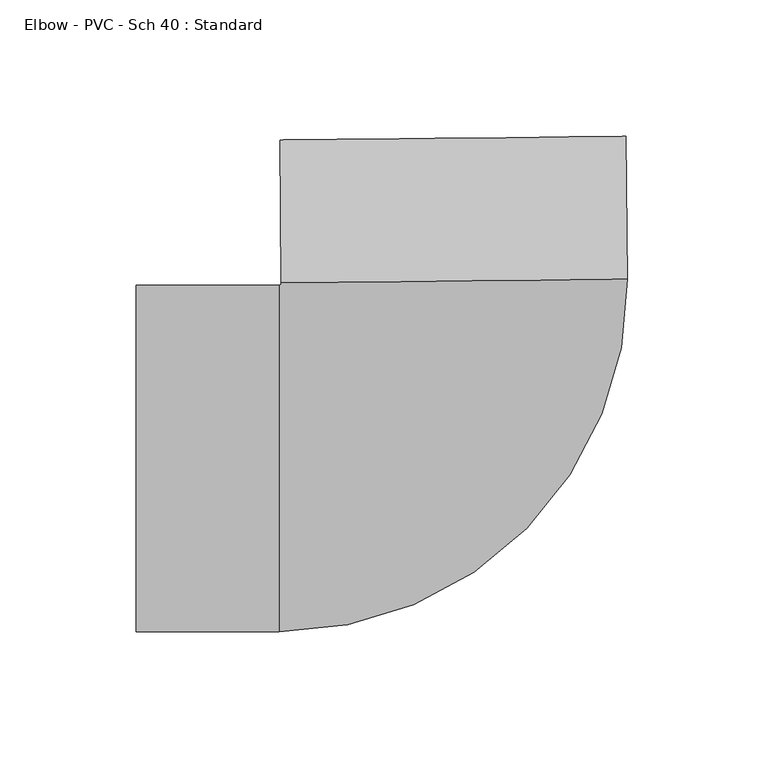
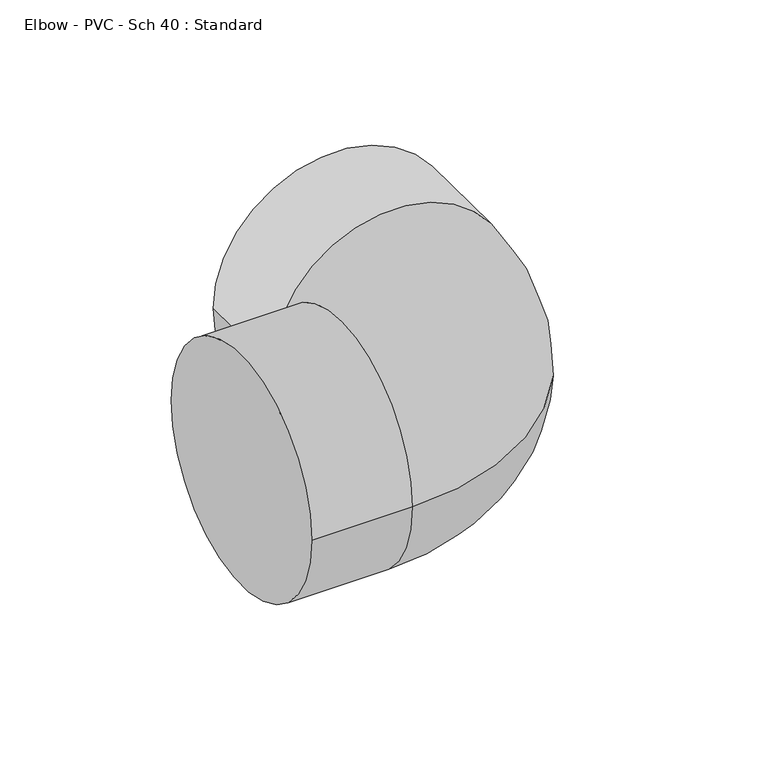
"""IFC4 building model written with IfcOpenShell, lengths in millimetres: pipe fitting geometry, Elbow - PVC - Sch 40 : Standard."""

import ifcopenshell
import ifcopenshell.guid

model = None  # the IFC model being written
_history = None  # IfcOwnerHistory: only IFC2X3 demands one
_inside = {}  # id of a spatial element -> (the spatial element, [elements in it])
_under = {}  # id of a project, library or spatial element -> (it, [spatial elements below it])
_declared = {}  # id of a project -> (the project, [libraries it declares])
_typed = {}  # id of a type object -> (the type object, [elements of that type])
_made_of = {}  # id of a material, layer set ... -> (it, [elements and type objects made of it])


def new_model(schema):
    """Start an empty IFC model of exactly this schema.

    Asked for "IFC4X3", IfcOpenShell would pick the latest addendum, in which some entities
    have other attributes; the version numbers below select the first issue.
    IFC2X3 requires an IfcOwnerHistory on every rooted entity: one is made here for all.
    """
    global model, _history
    if schema == "IFC4X3":
        model = ifcopenshell.file(schema_version=(4, 3, 0, 0))
    else:
        model = ifcopenshell.file(schema=schema)
    _inside.clear()
    _under.clear()
    _declared.clear()
    _typed.clear()
    _made_of.clear()
    _history = None
    if model.schema == "IFC2X3":
        org = make("IfcOrganization", Name="unknown")
        user = make(
            "IfcPersonAndOrganization",
            ThePerson=make("IfcPerson", FamilyName="unknown"),
            TheOrganization=org,
        )
        app = make(
            "IfcApplication",
            ApplicationDeveloper=org,
            Version="unknown",
            ApplicationFullName="unknown",
            ApplicationIdentifier="unknown",
        )
        _history = make(
            "IfcOwnerHistory",
            OwningUser=user,
            OwningApplication=app,
            ChangeAction="ADDED",
            CreationDate=0,
        )
    return model


def make(cls, **values):
    """One entity of the class cls with the attributes given. An attribute that is None is left unset."""
    return model.create_entity(
        cls, **{name: value for name, value in values.items() if value is not None}
    )


def rooted(cls, **values):
    """An entity with a GlobalId (a new one), such as an element, a storey or a relation."""
    return make(cls, GlobalId=ifcopenshell.guid.new(), OwnerHistory=_history, **values)


def si_unit(unit_type, name, prefix=None):
    """IfcSIUnit, for example si_unit("LENGTHUNIT", "METRE", prefix="MILLI")."""
    return make("IfcSIUnit", UnitType=unit_type, Prefix=prefix, Name=name)


def assignment(units):
    """IfcUnitAssignment: the units of a project."""
    return None if units is None else make("IfcUnitAssignment", Units=units)


def point(xyz):
    """IfcCartesianPoint."""
    return None if xyz is None else make("IfcCartesianPoint", Coordinates=xyz)


def direction(xyz):
    """IfcDirection."""
    return None if xyz is None else make("IfcDirection", DirectionRatios=xyz)


def frame(location, z_axis=None, x_axis=None):
    """IfcAxis2Placement3D, a coordinate frame: its origin and axes. An axis left out is left unset."""
    return make(
        "IfcAxis2Placement3D",
        Location=point(location),
        Axis=direction(z_axis),
        RefDirection=direction(x_axis),
    )


def origin():
    """The frame at (0, 0, 0) with its axes left unset."""
    return frame((0.0, 0.0, 0.0))


def place(relative_to, where):
    """IfcLocalPlacement: puts the frame where relative to a parent placement (None: the world)."""
    return make(
        "IfcLocalPlacement", PlacementRelTo=relative_to, RelativePlacement=where
    )


def context(
    kind, dimensions, precision=None, world=None, true_north=None, identifier=None
):
    """IfcGeometricRepresentationContext, for example the 3D "Model" context."""
    return make(
        "IfcGeometricRepresentationContext",
        ContextIdentifier=identifier,
        ContextType=kind,
        CoordinateSpaceDimension=dimensions,
        Precision=precision,
        WorldCoordinateSystem=world,
        TrueNorth=true_north,
    )


def project(units=None, contexts=None):
    """IfcProject with its units and contexts."""
    return rooted(
        "IfcProject",
        Name="project",
        RepresentationContexts=contexts,
        UnitsInContext=assignment(units),
    )


def spatial(cls, under=None, at=None, **own):
    """A site, building, storey or space (cls), placed at a placement, below another one or the project."""
    s = rooted(cls, ObjectPlacement=at, **own)
    if under is not None:
        _under.setdefault(under.id(), (under, []))[1].append(s)
    return s


def circle_curve(where, radius):
    """IfcCircle in the frame where."""
    return make("IfcCircle", Position=where, Radius=radius)


def ellipse_curve(where, semi_axis1, semi_axis2):
    """IfcEllipse in the frame where."""
    return make(
        "IfcEllipse", Position=where, SemiAxis1=semi_axis1, SemiAxis2=semi_axis2
    )


def trimmed(basis, trim1, trim2, sense, master):
    """IfcTrimmedCurve: the piece of a basis curve between two trims."""
    return make(
        "IfcTrimmedCurve",
        BasisCurve=basis,
        Trim1=trim1,
        Trim2=trim2,
        SenseAgreement=sense,
        MasterRepresentation=master,
    )


def shape(context_of_items, identifier, shape_type, items):
    """IfcShapeRepresentation: the items that make up one representation, for example the "Body"."""
    return make(
        "IfcShapeRepresentation",
        ContextOfItems=context_of_items,
        RepresentationIdentifier=identifier,
        RepresentationType=shape_type,
        Items=items,
    )


def source(mapping_origin, context_of_items, identifier, shape_type, items):
    """IfcRepresentationMap: a shape defined once, which mapped items show again and again."""
    return make(
        "IfcRepresentationMap",
        MappingOrigin=mapping_origin,
        MappedRepresentation=shape(context_of_items, identifier, shape_type, items),
    )


def transform(
    local_origin,
    x_axis=None,
    y_axis=None,
    z_axis=None,
    scale=None,
    scale2=None,
    scale3=None,
    uniform=True,
):
    """IfcCartesianTransformationOperator3D, or its non-uniform kind. x_axis, y_axis, z_axis: its Axis1, 2, 3."""
    if uniform:
        return make(
            "IfcCartesianTransformationOperator3D",
            Axis1=direction(x_axis),
            Axis2=direction(y_axis),
            LocalOrigin=point(local_origin),
            Scale=scale,
            Axis3=direction(z_axis),
        )
    return make(
        "IfcCartesianTransformationOperator3DnonUniform",
        Axis1=direction(x_axis),
        Axis2=direction(y_axis),
        LocalOrigin=point(local_origin),
        Scale=scale,
        Axis3=direction(z_axis),
        Scale2=scale2,
        Scale3=scale3,
    )


def mapped(mapping_source, mapping_target):
    """IfcMappedItem: shows the shape of a source again, moved by a transform."""
    return make(
        "IfcMappedItem", MappingSource=mapping_source, MappingTarget=mapping_target
    )


def made_of(thing, what):
    """Note that an element or type object is made of a material, layer set ...; save() writes the relation."""
    if what is not None:
        _made_of.setdefault(what.id(), (what, []))[1].append(thing)
    return thing


def element(
    cls,
    number,
    at=None,
    inside=None,
    cuts=None,
    type_object=None,
    material=None,
    context=None,
    identifier="Body",
    shape_type=None,
    held_by="IfcProductDefinitionShape",
    body=None,
    shapes=None,
    **own,
):
    """One element of the class cls, such as IfcWall. Its Tag is "e" and its number.

    at: its placement. inside: the storey or other place that contains it. cuts: it is an
    opening in that element (IfcRelVoidsElement). A single representation is given by context,
    identifier, shape_type and body (its items); several are given by shapes. held_by: the class
    of the entity that holds the representations. save() writes the other relations.
    """
    e = rooted(cls, Tag="e%d" % number, ObjectPlacement=at, **own)
    if body is not None:
        shapes = [shape(context, identifier, shape_type, body)]
    if shapes is not None:
        e.Representation = make(held_by, Representations=shapes)
    if inside is not None:
        _inside.setdefault(inside.id(), (inside, []))[1].append(e)
    if cuts is not None:
        rooted(
            "IfcRelVoidsElement", RelatingBuildingElement=cuts, RelatedOpeningElement=e
        )
    if type_object is not None:
        _typed.setdefault(type_object.id(), (type_object, []))[1].append(e)
    return made_of(e, material)


def aggregate(whole, parts):
    """IfcRelAggregates: a whole, such as a stair, and the parts it consists of."""
    return rooted("IfcRelAggregates", RelatingObject=whole, RelatedObjects=parts)


def save(model, path):
    """Write the relations noted so far, then the file.

    IfcRelAggregates (storeys below a building ...), IfcRelContainedInSpatialStructure (elements
    in a storey), IfcRelDefinesByType, IfcRelAssociatesMaterial and IfcRelDeclares: one each for
    every whole, place, type object, material and project.
    """
    for whole, parts in _under.values():
        aggregate(whole, parts)
    for where, things in _inside.values():
        rooted(
            "IfcRelContainedInSpatialStructure",
            RelatedElements=things,
            RelatingStructure=where,
        )
    for kind, things in _typed.values():
        rooted("IfcRelDefinesByType", RelatedObjects=things, RelatingType=kind)
    for what, things in _made_of.values():
        rooted("IfcRelAssociatesMaterial", RelatedObjects=things, RelatingMaterial=what)
    for by, libraries in _declared.values():
        rooted("IfcRelDeclares", RelatingContext=by, RelatedDefinitions=libraries)
    model.write(path)


def plane_surface(at):
    """IfcPlane: the flat surface through the origin of the frame at, square to its z axis."""
    return make("IfcPlane", Position=at)


def cylinder_surface(at, radius):
    """IfcCylindricalSurface: all points at the distance radius from the z axis of the frame at."""
    return make("IfcCylindricalSurface", Position=at, Radius=radius)


def revolved_surface(curve, axis_point, axis_direction):
    """IfcSurfaceOfRevolution: the curve turned about the line through axis_point along axis_direction."""
    return make(
        "IfcSurfaceOfRevolution",
        SweptCurve=make("IfcArbitraryOpenProfileDef", ProfileType="CURVE", Curve=curve),
        AxisPosition=make("IfcAxis1Placement", Location=point(axis_point), Axis=direction(axis_direction)),
    )


def advanced_brep(points, edges, surfaces, faces):
    """IfcAdvancedBrep: a solid bounded by faces that lie on surfaces and meet in shared edges.

    An edge is (start, end): straight between two places in points (the first is 0);
    or (start, end, curve); or (start, end, curve, False) where it runs against its curve.
    A face is (place in surfaces, loops), or (place, loops, False) where it looks against
    its surface's normal. A loop lists edges by number (the first is 1), with a minus sign
    where the edge is run from its end to its start. The first loop is the outer one.
    """
    corners = [point(p) for p in points]
    vertices = [make("IfcVertexPoint", VertexGeometry=c) for c in corners]
    made = []
    for start, end, *more in edges:
        made.append(
            make(
                "IfcEdgeCurve",
                EdgeStart=vertices[start],
                EdgeEnd=vertices[end],
                EdgeGeometry=more[0] if more else make("IfcPolyline", Points=[corners[start], corners[end]]),
                SameSense=more[1] if len(more) > 1 else True,
            )
        )
    hull = []
    for where, loops, *sense in faces:
        bounds = []
        for j, loop in enumerate(loops):
            ring = [make("IfcOrientedEdge", EdgeElement=made[abs(k) - 1], Orientation=k > 0) for k in loop]
            bounds.append(
                make(
                    "IfcFaceOuterBound" if j == 0 else "IfcFaceBound",
                    Bound=make("IfcEdgeLoop", EdgeList=ring),
                    Orientation=True,
                )
            )
        hull.append(make("IfcAdvancedFace", Bounds=bounds, FaceSurface=surfaces[where], SameSense=sense[0] if sense else True))
    return make("IfcAdvancedBrep", Outer=make("IfcClosedShell", CfsFaces=hull))


def elbow_pvc_sch_40_standard_c47e97bb(model_context):
    return source(origin(), model_context, "Body", "AdvancedBrep", [
        advanced_brep(
        [(-117.3671646, -63.5, 0.0), (-117.3671646, 63.5, 0.0), (-64.9669646, -63.5, 0.0), (-64.9669646, 63.5, 0.0), (-64.1732577, 64.3020178, 0.0), (62.8198527, 65.6248627, 0.0), (62.2740469, 118.02222, 0.0), (-64.7190635, 116.6993751, 0.0)],
        [
            (0, 1, circle_curve(frame((-117.3671646, 0.0, 0.0), z_axis=(-1.0, 0.0, 0.0), x_axis=(0.0, 1.0, 0.0)), 63.5)),
            (1, 0, circle_curve(frame((-117.3671646, 0.0, 0.0), z_axis=(-1.0, 0.0, 0.0), x_axis=(0.0, 1.0, 0.0)), 63.5)),
            (0, 2),
            (2, 3, circle_curve(frame((-64.9669646, 0.0, 0.0), z_axis=(-1.0, 0.0, 0.0), x_axis=(0.0, 1.0, 0.0)), 63.5)),
            (3, 1),
            (3, 2, circle_curve(frame((-64.9669646, 0.0, 0.0), z_axis=(-1.0, 0.0, 0.0), x_axis=(0.0, 1.0, 0.0)), 63.5)),
            (4, 3, circle_curve(frame((-64.9669646, 64.29375, 0.0), z_axis=(0.0, 0.0, -1.0), x_axis=(0.0, -1.0, 0.0)), 0.79375)),
            (2, 5, circle_curve(frame((-64.9669646, 64.29375, 0.0), z_axis=(0.0, 0.0, 1.0), x_axis=(0.0, -1.0, 0.0)), 127.79375)),
            (5, 4, circle_curve(frame((-0.6767025, 64.9634402, 0.0), z_axis=(0.010416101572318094, -0.9999457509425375, 0.0), x_axis=(-0.9999457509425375, -0.010416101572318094, 0.0)), 63.5)),
            (4, 5, circle_curve(frame((-0.6767025, 64.9634402, 0.0), z_axis=(0.010416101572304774, -0.9999457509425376, 0.0), x_axis=(-0.9999457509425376, -0.010416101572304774, 0.0)), 63.5)),
            (6, 7, circle_curve(frame((-1.2225083, 117.3607976, 0.0), z_axis=(-0.010416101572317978, 0.9999457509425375, 0.0), x_axis=(-0.9999457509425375, -0.010416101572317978, 0.0)), 63.5)),
            (7, 6, circle_curve(frame((-1.2225083, 117.3607976, 0.0), z_axis=(-0.010416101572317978, 0.9999457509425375, 0.0), x_axis=(-0.9999457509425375, -0.010416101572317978, 0.0)), 63.5)),
            (5, 6),
            (7, 4),
        ],
        [
            plane_surface(frame((-117.3671646, 0.0, 0.0), z_axis=(-1.0, 0.0, 0.0), x_axis=(0.0, 0.0, 1.0))),
            cylinder_surface(frame((-117.3671646, 0.0, 0.0), z_axis=(-1.0, 0.0, 0.0), x_axis=(0.0, 1.0, 0.0)), 63.5),
            revolved_surface(trimmed(ellipse_curve(frame((-64.9669646, 0.0, 0.0), z_axis=(-1.0, 0.0, 0.0), x_axis=(0.0, 1.0, 0.0)), 63.5, 63.5), [point((-64.9669646, -63.5, 0.0))], [point((-64.9669646, 63.5, 0.0))], True, "CARTESIAN"), (-64.9669646, 64.29375, 0.0), (0.0, 0.0, 1.0)),
            revolved_surface(trimmed(ellipse_curve(frame((-64.9669646, 0.0, 0.0), z_axis=(-1.0, 0.0, 0.0), x_axis=(0.0, 1.0, 0.0)), 63.5, 63.5), [point((-64.9669646, 63.5, 0.0))], [point((-64.9669646, -63.5, 0.0))], True, "CARTESIAN"), (-64.9669646, 64.29375, 0.0), (0.0, 0.0, 1.0)),
            plane_surface(frame((-1.2225083, 117.3607976, 0.0), z_axis=(-0.01041610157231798, 0.9999457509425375, 0.0), x_axis=(0.0, 0.0, 1.0))),
            cylinder_surface(frame((-0.6767025, 64.9634402, 0.0), z_axis=(0.010416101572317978, -0.9999457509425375, 0.0), x_axis=(-0.9999457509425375, -0.010416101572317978, 0.0)), 63.5),
        ],
        [
            (0, [[1, 2]]),
            (1, [[-1, 3, 4, 5]]),
            (1, [[-2, -5, 6, -3]]),
            (2, [[7, -4, 8, 9]]),
            (3, [[-8, -6, -7, 10]]),
            (4, [[11, 12]]),
            (5, [[-9, 13, -12, 14]]),
            (5, [[-10, -14, -11, -13]]),
        ],
    ),
    ])


if __name__ == "__main__":
    model = new_model("IFC4")
    model_context = context("Model", 3, world=origin())
    ifc_project = project(units=[si_unit("LENGTHUNIT", "METRE", prefix="MILLI")], contexts=[model_context])
    site = spatial("IfcSite", under=ifc_project)
    building = spatial("IfcBuilding", under=site)
    placement = place(None, origin())
    elbow_pvc_sch_40_standard_shape = elbow_pvc_sch_40_standard_c47e97bb(model_context)
    element("IfcPipeFitting", 1, ObjectType="Elbow - PVC - Sch 40 : Standard", at=placement, inside=building, context=model_context, shape_type="MappedRepresentation", body=[
        mapped(elbow_pvc_sch_40_standard_shape, transform((0.0, 0.0, 0.0), x_axis=(1.0, 0.0, 0.0), y_axis=(0.0, 1.0, 0.0), z_axis=(0.0, 0.0, 1.0))),
    ])
    save(model, "model.ifc")
